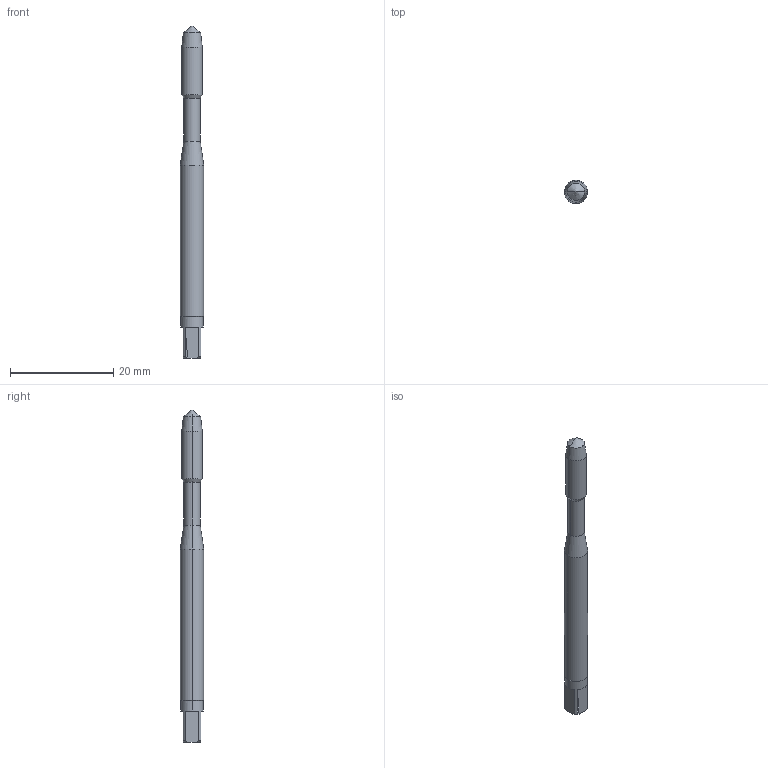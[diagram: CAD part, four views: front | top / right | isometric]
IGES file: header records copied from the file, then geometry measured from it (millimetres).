
Start section: 3D InterOp IGES (v. 2020 1.0.1), Spatial Corp. Copyright (c) 1999-2017.
Global section: file name: WZG32141_4.igs; native system: Spatial Corp.; preprocessor: 3D InterOp GENERIC/IGES 3.0; author: Noname; organization: Noname; date: 20210125.100018; units: metre
Bounding box: 4.5 x 4.5 x 64.3 mm (x, y, z)
Surface area: 841.3 mm2 (no closed solid volume)
Topology: 0 solids, 0 shells, 31 faces, 146 edges, 144 vertices
Faces by surface type: revolution 22, extrusion 9
